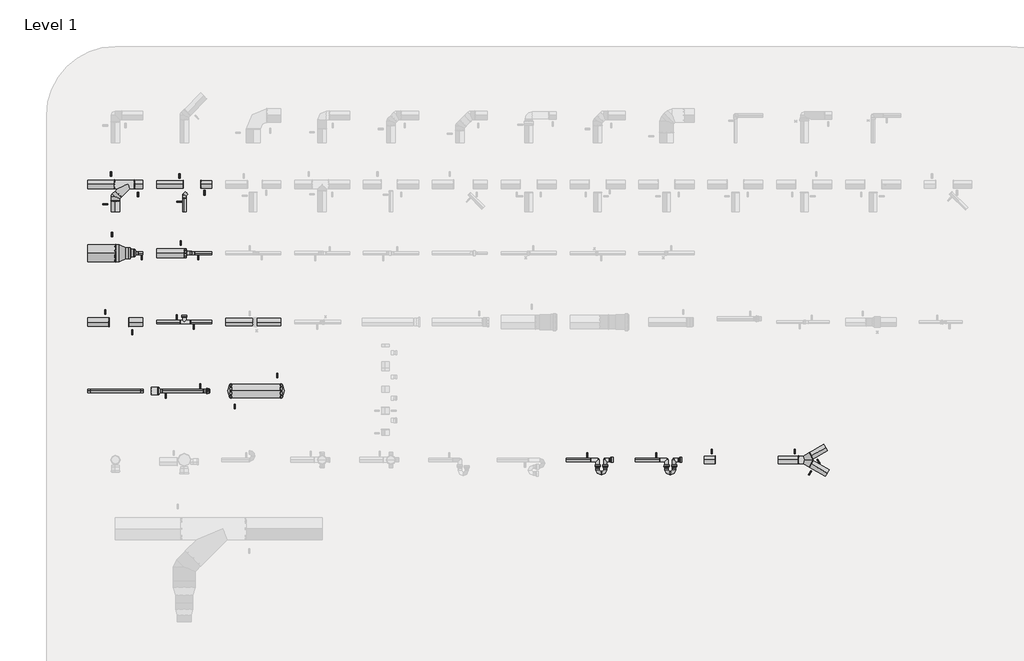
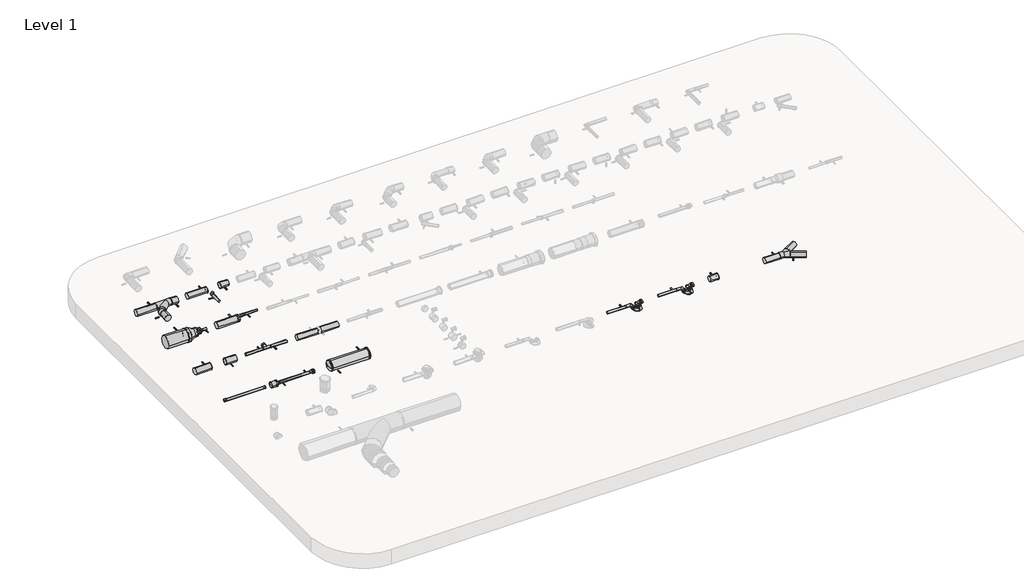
# One storey, part 2 of 6: 44 pipe fittings, 25 pipe segments.
"""IFC4 building model written with IfcOpenShell, lengths in millimetres."""

from ifc_helpers import new_model, si_unit, point, frame, frame_2d, origin, place, context, project, spatial, circle_curve, trimmed, segment, composite_curve, outline, extrude, transform, mapped, element, save
from components import var_9bac737f, var_ad64e43e, var_f264d998, var_078c649d, var_e8e01903, var_733641dc, var_dcd50663, nested_do_not_use_f8d48da3, nested_do_not_use_355ab53d, nested_do_not_use_767789ff, nested_do_not_use_3388fafc, nested_do_not_use_92dc5302, nested_do_not_use_8d55d71e, nested_do_not_use_f3a1de72, nested_do_not_use_7bd735e8, nested_do_not_use_cade87c8, nested_do_not_use_d63bcd51, welded_7e5780db, welded_b2ff7ccb, welded_75b1cb19, welded_63566782, welded_ed6f555c, welded_ac007b25

model = new_model("IFC4")

# Units and contexts
model_context = context("Model", 3, world=origin())
ifc_project = project(units=[si_unit("LENGTHUNIT", "METRE", prefix="MILLI")], contexts=[model_context])

# Site, building, storey
site = spatial("IfcSite", under=ifc_project)
building = spatial("IfcBuilding", under=site)
storey = spatial("IfcBuildingStorey", under=building, Name="Level 1", Elevation=0.0)

# Pipe fittings
placement = place(None, origin())
var_shape = var_9bac737f(model_context)
element("IfcPipeFitting", 1, ObjectType="PIF_HDPE cap for pipe_Akatherm : Var.", at=placement, inside=storey, context=model_context, shape_type="MappedRepresentation", body=[
    mapped(var_shape, transform((2259.9781064, 16273.6274824, 200.0), x_axis=(-1.0, 0.0, 0.0), y_axis=(0.0, -1.0, 0.0), z_axis=(0.0, 0.0, 1.0))),
])
element("IfcPipeFitting", 2, ObjectType="PIF_HDPE cap for pipe_Akatherm : Var.", at=placement, inside=storey, context=model_context, shape_type="MappedRepresentation", body=[
    mapped(var_shape, transform((3059.9781064, 16273.6274824, 200.0), x_axis=(1.0, 0.0, 0.0), y_axis=(0.0, 1.0, 0.0), z_axis=(0.0, 0.0, 1.0))),
])
var_2_shape = var_ad64e43e(model_context)
element("IfcPipeFitting", 3, ObjectType="PIF_HDPE cleanout branch_Akatherm : Var.", at=placement, inside=storey, context=model_context, shape_type="MappedRepresentation", body=[
    mapped(var_2_shape, transform((3659.9781064, 17273.6274824, 200.0), x_axis=(1.0, 0.0, 0.0), y_axis=(0.0, 1.0, 0.0), z_axis=(0.0, 0.0, 1.0))),
])
var_3_shape = var_f264d998(model_context)
element("IfcPipeFitting", 4, ObjectType="PIF_HDPE inspection screw lock_Akatherm : Var.", at=placement, inside=storey, context=model_context, shape_type="MappedRepresentation", body=[
    mapped(var_3_shape, transform((3939.9781064, 16273.6274824, 200.0), x_axis=(1.0, 0.0, 0.0), y_axis=(0.0, 1.0, 0.0), z_axis=(0.0, 0.0, 1.0))),
])
var_4_shape = var_078c649d(model_context)
element("IfcPipeFitting", 5, ObjectType="PIF_HDPE screw cap_Akatherm : Var.", at=placement, inside=storey, context=model_context, shape_type="MappedRepresentation", body=[
    mapped(var_4_shape, transform((3265.3781064, 16273.6274824, 200.0), x_axis=(-1.0, 0.0, 0.0), y_axis=(0.0, -1.0, 0.0), z_axis=(0.0, 0.0, 1.0))),
])
var_5_shape = var_e8e01903(model_context)
element("IfcPipeFitting", 6, ObjectType="PIF_HDPE end cap round_Akatherm : Var.", at=placement, inside=storey, context=model_context, shape_type="MappedRepresentation", body=[
    mapped(var_5_shape, transform((4339.9781064, 16273.6274824, 200.0), x_axis=(-1.0, 0.0, 0.0), y_axis=(0.0, -1.0, 0.0), z_axis=(0.0, 0.0, 1.0))),
])
element("IfcPipeFitting", 7, ObjectType="PIF_HDPE end cap round_Akatherm : Var.", at=placement, inside=storey, context=model_context, shape_type="MappedRepresentation", body=[
    mapped(var_5_shape, transform((5059.9781064, 16273.6274824, 200.0), x_axis=(1.0, 0.0, 0.0), y_axis=(0.0, 1.0, 0.0), z_axis=(0.0, 0.0, 1.0))),
])
var_6_shape = var_733641dc(model_context)
element("IfcPipeFitting", 8, ObjectType="PIF_HDPE u trap_Akatherm : Var.", at=placement, inside=storey, context=model_context, shape_type="MappedRepresentation", body=[
    mapped(var_6_shape, transform((9714.9781064, 15273.6274824, 200.0), x_axis=(1.0, 0.0, 0.0), y_axis=(0.0, 1.0, 0.0), z_axis=(0.0, 0.0, 1.0))),
])
element("IfcPipeFitting", 9, ObjectType="PIF_HDPE u trap_Akatherm : Var.", at=placement, inside=storey, context=model_context, shape_type="MappedRepresentation", body=[
    mapped(var_6_shape, transform((10714.9781064, 15273.6274824, 200.0), x_axis=(1.0, 0.0, 0.0), y_axis=(0.0, 1.0, 0.0), z_axis=(0.0, 0.0, 1.0))),
])
var_7_shape = var_dcd50663(model_context)
element("IfcPipeFitting", 10, ObjectType="PIF_HDPE y branch_Akatherm : Var.", at=placement, inside=storey, context=model_context, shape_type="MappedRepresentation", body=[
    mapped(var_7_shape, transform((12659.9781064, 15273.6274824, 200.0), x_axis=(1.0, 0.0, 0.0), y_axis=(0.0, 1.0, 0.0), z_axis=(0.0, 0.0, 1.0))),
])
nested_do_not_use_shape = nested_do_not_use_f8d48da3(model_context)
element("IfcPipeFitting", 11, ObjectType="ZZZ_do no use_PIF_HDPE reducer -SH_Akatherm : nested, do not use", at=placement, inside=storey, context=model_context, shape_type="MappedRepresentation", body=[
    mapped(nested_do_not_use_shape, transform((2878.3781064, 18273.6274824, 200.0), x_axis=(1.0, 0.0, 0.0), y_axis=(0.0, 1.0, 0.0), z_axis=(0.0, 0.0, 1.0))),
])
nested_do_not_use_2_shape = nested_do_not_use_355ab53d(model_context)
element("IfcPipeFitting", 12, ObjectType="ZZZ_do no use_PIF_HDPE elbow for branch assembly -SH_Akatherm : nested, do not use", at=placement, inside=storey, context=model_context, shape_type="MappedRepresentation", body=[
    mapped(nested_do_not_use_2_shape, transform((2659.9781064, 19092.1838823, 200.0), x_axis=(0.0, 1.0, 0.0), y_axis=(-1.0, 0.0, 0.0), z_axis=(0.0, 0.0, 1.0))),
])
nested_do_not_use_3_shape = nested_do_not_use_767789ff(model_context)
element("IfcPipeFitting", 13, ObjectType="ZZZ_do no use_PIF_HDPE elbow for branch assembly -SH_Akatherm : nested, do not use", at=placement, inside=storey, context=model_context, shape_type="MappedRepresentation", body=[
    mapped(nested_do_not_use_3_shape, transform((3659.9781064, 19116.9326197, 200.0), x_axis=(0.0, 1.0, 0.0), y_axis=(-1.0, 0.0, 0.0), z_axis=(0.0, 0.0, 1.0))),
])
nested_do_not_use_4_shape = nested_do_not_use_3388fafc(model_context)
element("IfcPipeFitting", 14, ObjectType="ZZZ_do no use_PIF_HDPE equal branch -SH_Akatherm : nested, do not use", at=placement, inside=storey, context=model_context, shape_type="MappedRepresentation", body=[
    mapped(nested_do_not_use_4_shape, transform((2841.4217065, 19273.6274824, 200.0), x_axis=(-1.0, 0.0, 0.0), y_axis=(0.0, -1.0, 0.0), z_axis=(0.0, 0.0, 1.0))),
])
nested_do_not_use_5_shape = nested_do_not_use_92dc5302(model_context)
element("IfcPipeFitting", 15, ObjectType="ZZZ_do no use_PIF_HDPE reducer -SH_Akatherm : nested, do not use", at=placement, inside=storey, context=model_context, shape_type="MappedRepresentation", body=[
    mapped(nested_do_not_use_5_shape, transform((3695.7781064, 18273.6274824, 200.0), x_axis=(1.0, 0.0, 0.0), y_axis=(0.0, 1.0, 0.0), z_axis=(0.0, 0.0, 1.0))),
])
nested_do_not_use_6_shape = nested_do_not_use_8d55d71e(model_context)
element("IfcPipeFitting", 16, ObjectType="ZZZ_do no use_PIF_HDPE reducer -SH_Akatherm : nested, do not use", at=placement, inside=storey, context=model_context, shape_type="MappedRepresentation", body=[
    mapped(nested_do_not_use_6_shape, transform((3772.3781064, 18273.6274824, 235.5), x_axis=(1.0, 0.0, 0.0), y_axis=(0.0, 1.0, 0.0), z_axis=(0.0, 0.0, 1.0))),
])
nested_do_not_use_7_shape = nested_do_not_use_f3a1de72(model_context)
element("IfcPipeFitting", 17, ObjectType="ZZZ_do no use_PIF_HDPE reducer -SH_Akatherm : nested, do not use", at=placement, inside=storey, context=model_context, shape_type="MappedRepresentation", body=[
    mapped(nested_do_not_use_7_shape, transform((2750.5281064, 18273.6274824, 200.0), x_axis=(1.0, 0.0, 0.0), y_axis=(0.0, 1.0, 0.0), z_axis=(0.0, 0.0, 1.0))),
])
nested_do_not_use_8_shape = nested_do_not_use_7bd735e8(model_context)
element("IfcPipeFitting", 18, ObjectType="ZZZ_do no use_PIF_HDPE reducer -SH_Akatherm : nested, do not use", at=placement, inside=storey, context=model_context, shape_type="MappedRepresentation", body=[
    mapped(nested_do_not_use_8_shape, transform((2950.9781064, 18273.6274824, 200.0), x_axis=(1.0, 0.0, 0.0), y_axis=(0.0, 1.0, 0.0), z_axis=(0.0, 0.0, 1.0))),
])
nested_do_not_use_9_shape = nested_do_not_use_cade87c8(model_context)
element("IfcPipeFitting", 19, ObjectType="ZZZ_do no use_PIF_HDPE reducer -SH_Akatherm : nested, do not use", at=placement, inside=storey, context=model_context, shape_type="MappedRepresentation", body=[
    mapped(nested_do_not_use_9_shape, transform((3301.6781064, 16273.6274824, 200.0), x_axis=(1.0, 0.0, 0.0), y_axis=(0.0, 1.0, 0.0), z_axis=(0.0, 0.0, 1.0))),
])
nested_do_not_use_10_shape = nested_do_not_use_d63bcd51(model_context)
element("IfcPipeFitting", 20, ObjectType="ZZZ_do no use_PIF_HDPE end cap for inspection screw lock -SH_Akatherm : nested, do not use", at=placement, inside=storey, context=model_context, shape_type="MappedRepresentation", body=[
    mapped(nested_do_not_use_10_shape, transform((4010.2781064, 16273.6274824, 200.0), x_axis=(1.0, 0.0, 0.0), y_axis=(0.0, 1.0, 0.0), z_axis=(0.0, 0.0, 1.0))),
])
welded_shape = welded_7e5780db(model_context)
element("IfcPipeFitting", 21, ObjectType="PIF_HDPE weld_Akatherm : welded", at=placement, inside=storey, context=model_context, shape_type="MappedRepresentation", body=[
    mapped(welded_shape, transform((2937.2217065, 19273.6274824, 200.0), x_axis=(1.0, 0.0, 0.0), y_axis=(0.0, 1.0, 0.0), z_axis=(0.0, 0.0, 1.0))),
])
element("IfcPipeFitting", 22, ObjectType="PIF_HDPE weld_Akatherm : welded", at=placement, inside=storey, context=model_context, shape_type="MappedRepresentation", body=[
    mapped(welded_shape, transform((2645.6217065, 19273.6274824, 200.0), x_axis=(-1.0, 0.0, 0.0), y_axis=(0.0, -1.0, 0.0), z_axis=(0.0, 0.0, 1.0))),
])
element("IfcPipeFitting", 23, ObjectType="PIF_HDPE weld_Akatherm : welded", at=placement, inside=storey, context=model_context, shape_type="MappedRepresentation", body=[
    mapped(welded_shape, transform((2659.9781064, 19031.3838823, 200.0), x_axis=(0.0, -1.0, 0.0), y_axis=(1.0, 0.0, 0.0), z_axis=(0.0, 0.0, 1.0))),
])
element("IfcPipeFitting", 24, ObjectType="PIF_HDPE weld_Akatherm : welded", at=placement, inside=storey, context=model_context, shape_type="MappedRepresentation", body=[
    mapped(welded_shape, transform((3659.9781064, 18273.6274824, 200.0), x_axis=(-1.0, 0.0, 0.0), y_axis=(0.0, -1.0, 0.0), z_axis=(0.0, 0.0, 1.0))),
])
element("IfcPipeFitting", 25, ObjectType="PIF_HDPE weld_Akatherm : welded", at=placement, inside=storey, context=model_context, shape_type="MappedRepresentation", body=[
    mapped(welded_shape, transform((2564.1781064, 17273.6274824, 200.0), x_axis=(-1.0, 0.0, 0.0), y_axis=(0.0, -1.0, 0.0), z_axis=(0.0, 0.0, 1.0))),
])
element("IfcPipeFitting", 26, ObjectType="PIF_HDPE weld_Akatherm : welded", at=placement, inside=storey, context=model_context, shape_type="MappedRepresentation", body=[
    mapped(welded_shape, transform((2855.7781064, 17273.6274824, 200.0), x_axis=(1.0, 0.0, 0.0), y_axis=(0.0, 1.0, 0.0), z_axis=(0.0, 0.0, 1.0))),
])
welded_2_shape = welded_b2ff7ccb(model_context)
element("IfcPipeFitting", 27, ObjectType="PIF_HDPE weld_Akatherm : welded", at=placement, inside=storey, context=model_context, shape_type="MappedRepresentation", body=[
    mapped(welded_2_shape, transform((5059.9781064, 16273.6274824, 200.0), x_axis=(-1.0, 0.0, 0.0), y_axis=(0.0, -1.0, 0.0), z_axis=(0.0, 0.0, 1.0))),
])
element("IfcPipeFitting", 28, ObjectType="PIF_HDPE weld_Akatherm : welded", at=placement, inside=storey, context=model_context, shape_type="MappedRepresentation", body=[
    mapped(welded_2_shape, transform((4339.9781064, 16273.6274824, 200.0), x_axis=(1.0, 0.0, 0.0), y_axis=(0.0, 1.0, 0.0), z_axis=(0.0, 0.0, 1.0))),
])
welded_3_shape = welded_75b1cb19(model_context)
element("IfcPipeFitting", 29, ObjectType="PIF_HDPE weld_Akatherm : welded", at=placement, inside=storey, context=model_context, shape_type="MappedRepresentation", body=[
    mapped(welded_3_shape, transform((3659.9781064, 19073.6326197, 200.0), x_axis=(0.0, -1.0, 0.0), y_axis=(1.0, 0.0, 0.0), z_axis=(0.0, 0.0, 1.0))),
])
element("IfcPipeFitting", 30, ObjectType="PIF_HDPE weld_Akatherm : welded", at=placement, inside=storey, context=model_context, shape_type="MappedRepresentation", body=[
    mapped(welded_3_shape, transform((3601.6781064, 17273.6274824, 200.0), x_axis=(-1.0, 0.0, 0.0), y_axis=(0.0, -1.0, 0.0), z_axis=(0.0, 0.0, 1.0))),
])
element("IfcPipeFitting", 31, ObjectType="PIF_HDPE weld_Akatherm : welded", at=placement, inside=storey, context=model_context, shape_type="MappedRepresentation", body=[
    mapped(welded_3_shape, transform((3748.2781064, 17273.6274824, 200.0), x_axis=(1.0, 0.0, 0.0), y_axis=(0.0, 1.0, 0.0), z_axis=(0.0, 0.0, 1.0))),
])
element("IfcPipeFitting", 32, ObjectType="PIF_HDPE weld_Akatherm : welded", at=placement, inside=storey, context=model_context, shape_type="MappedRepresentation", body=[
    mapped(welded_3_shape, transform((3339.9781064, 16273.6274824, 200.0), x_axis=(1.0, 0.0, 0.0), y_axis=(0.0, 1.0, 0.0), z_axis=(0.0, 0.0, 1.0))),
])
element("IfcPipeFitting", 33, ObjectType="PIF_HDPE weld_Akatherm : welded", at=placement, inside=storey, context=model_context, shape_type="MappedRepresentation", body=[
    mapped(welded_3_shape, transform((3939.9781064, 16273.6274824, 200.0), x_axis=(-1.0, 0.0, 0.0), y_axis=(0.0, -1.0, 0.0), z_axis=(0.0, 0.0, 1.0))),
])
element("IfcPipeFitting", 34, ObjectType="PIF_HDPE weld_Akatherm : welded", at=placement, inside=storey, context=model_context, shape_type="MappedRepresentation", body=[
    mapped(welded_3_shape, transform((9557.6781064, 15273.6274824, 200.0), x_axis=(-1.0, 0.0, 0.0), y_axis=(0.0, -1.0, 0.0), z_axis=(0.0, 0.0, 1.0))),
])
element("IfcPipeFitting", 35, ObjectType="PIF_HDPE weld_Akatherm : welded", at=placement, inside=storey, context=model_context, shape_type="MappedRepresentation", body=[
    mapped(welded_3_shape, transform((10557.6781064, 15273.6274824, 200.0), x_axis=(-1.0, 0.0, 0.0), y_axis=(0.0, -1.0, 0.0), z_axis=(0.0, 0.0, 1.0))),
])
welded_4_shape = welded_63566782(model_context)
element("IfcPipeFitting", 36, ObjectType="PIF_HDPE weld_Akatherm : welded", at=placement, inside=storey, context=model_context, shape_type="MappedRepresentation", body=[
    mapped(welded_4_shape, transform((3810.6781064, 18273.6274824, 238.5), x_axis=(1.0, 0.0, 0.0), y_axis=(0.0, 1.0, 0.0), z_axis=(0.0, 0.0, 1.0))),
])
element("IfcPipeFitting", 37, ObjectType="PIF_HDPE weld_Akatherm : welded", at=placement, inside=storey, context=model_context, shape_type="MappedRepresentation", body=[
    mapped(welded_4_shape, transform((2989.2781064, 18273.6274824, 200.0), x_axis=(1.0, 0.0, 0.0), y_axis=(0.0, 1.0, 0.0), z_axis=(0.0, 0.0, 1.0))),
])
welded_5_shape = welded_ed6f555c(model_context)
element("IfcPipeFitting", 38, ObjectType="PIF_HDPE weld_Akatherm : welded", at=placement, inside=storey, context=model_context, shape_type="MappedRepresentation", body=[
    mapped(welded_5_shape, transform((2659.9781064, 18273.6274824, 200.0), x_axis=(-1.0, 0.0, 0.0), y_axis=(0.0, -1.0, 0.0), z_axis=(0.0, 0.0, 1.0))),
])
welded_6_shape = welded_ac007b25(model_context)
element("IfcPipeFitting", 39, ObjectType="PIF_HDPE weld_Akatherm : welded", at=placement, inside=storey, context=model_context, shape_type="MappedRepresentation", body=[
    mapped(welded_6_shape, transform((3902.9729691, 19273.6274824, 200.0), x_axis=(1.0, 0.0, 0.0), y_axis=(0.0, 1.0, 0.0), z_axis=(0.0, 0.0, 1.0))),
])
element("IfcPipeFitting", 40, ObjectType="PIF_HDPE weld_Akatherm : welded", at=placement, inside=storey, context=model_context, shape_type="MappedRepresentation", body=[
    mapped(welded_6_shape, transform((3640.3729691, 19273.6274824, 200.0), x_axis=(-1.0, 0.0, 0.0), y_axis=(0.0, -1.0, 0.0), z_axis=(0.0, 0.0, 1.0))),
])
element("IfcPipeFitting", 41, ObjectType="PIF_HDPE weld_Akatherm : welded", at=placement, inside=storey, context=model_context, shape_type="MappedRepresentation", body=[
    mapped(welded_6_shape, transform((11363.6781064, 15273.6274824, 200.0), x_axis=(-1.0, 0.0, 0.0), y_axis=(0.0, -1.0, 0.0), z_axis=(0.0, 0.0, 1.0))),
])
element("IfcPipeFitting", 42, ObjectType="PIF_HDPE weld_Akatherm : welded", at=placement, inside=storey, context=model_context, shape_type="MappedRepresentation", body=[
    mapped(welded_6_shape, transform((12573.6781064, 15273.6274824, 200.0), x_axis=(-1.0, 0.0, 0.0), y_axis=(0.0, -1.0, 0.0), z_axis=(0.0, 0.0, 1.0))),
])
element("IfcPipeFitting", 43, ObjectType="PIF_HDPE weld_Akatherm : welded", at=placement, inside=storey, context=model_context, shape_type="MappedRepresentation", body=[
    mapped(welded_6_shape, transform((12760.6968609, 15331.7774824, 200.0), x_axis=(0.8660254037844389, 0.49999999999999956, 0.0), y_axis=(-0.49999999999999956, 0.8660254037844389, 0.0), z_axis=(0.0, 0.0, 1.0))),
])
element("IfcPipeFitting", 44, ObjectType="PIF_HDPE weld_Akatherm : welded", at=placement, inside=storey, context=model_context, shape_type="MappedRepresentation", body=[
    mapped(welded_6_shape, transform((12760.6968609, 15215.4774824, 200.0), x_axis=(0.8660254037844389, -0.49999999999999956, 0.0), y_axis=(0.49999999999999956, 0.8660254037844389, 0.0), z_axis=(0.0, 0.0, 1.0))),
])

# Pipe segments
element("IfcPipeSegment", 45, ObjectType="Akatherm HDPE (DN)", at=placement, inside=storey, context=model_context, shape_type="SweptSolid", body=[
    extrude(outline(composite_curve([segment(trimmed(circle_curve(frame_2d((19273.6274824, 200.0)), 62.5), [point((19211.1274824, 200.0))], [point((19273.6274824, 262.5))], False, "CARTESIAN"), True, "CONTINUOUS"), segment(trimmed(circle_curve(frame_2d((19273.6274824, 200.0)), 62.5), [point((19273.6274824, 262.5))], [point((19336.1274824, 200.0))], False, "CARTESIAN"), True, "CONTINUOUS"), segment(trimmed(circle_curve(frame_2d((19273.6274824, 200.0)), 62.5), [point((19336.1274824, 200.0))], [point((19273.6274824, 137.5))], False, "CARTESIAN"), True, "CONTINUOUS"), segment(trimmed(circle_curve(frame_2d((19273.6274824, 200.0)), 62.5), [point((19273.6274824, 137.5))], [point((19211.1274824, 200.0))], False, "CARTESIAN"), True, "CONTINUOUS")], self_intersect=False)), frame((2933.0217065, 0.0, 0.0), z_axis=(1.0, 0.0, 0.0), x_axis=(0.0, 1.0, 0.0)), (0.0, 0.0, 1.0), 126.9563999),
])
element("IfcPipeSegment", 46, ObjectType="Akatherm HDPE (DN)", at=placement, inside=storey, context=model_context, shape_type="SweptSolid", body=[
    extrude(outline(composite_curve([segment(trimmed(circle_curve(frame_2d((200.0, 2659.9781064)), 62.5), [point((200.0, 2597.4781064))], [point((137.5, 2659.9781064))], False, "CARTESIAN"), True, "CONTINUOUS"), segment(trimmed(circle_curve(frame_2d((200.0, 2659.9781064)), 62.5), [point((137.5, 2659.9781064))], [point((200.0, 2722.4781064))], False, "CARTESIAN"), True, "CONTINUOUS"), segment(trimmed(circle_curve(frame_2d((200.0, 2659.9781064)), 62.5), [point((200.0, 2722.4781064))], [point((262.5, 2659.9781064))], False, "CARTESIAN"), True, "CONTINUOUS"), segment(trimmed(circle_curve(frame_2d((200.0, 2659.9781064)), 62.5), [point((262.5, 2659.9781064))], [point((200.0, 2597.4781064))], False, "CARTESIAN"), True, "CONTINUOUS")], self_intersect=False)), frame((0.0, 18873.6274824, 0.0), z_axis=(0.0, 1.0, 0.0), x_axis=(0.0, 0.0, 1.0)), (0.0, 0.0, 1.0), 161.9563999),
])
element("IfcPipeSegment", 47, ObjectType="Akatherm HDPE (DN)", at=placement, inside=storey, context=model_context, shape_type="SweptSolid", body=[
    extrude(outline(composite_curve([segment(trimmed(circle_curve(frame_2d((19273.6274824, 200.0)), 62.5), [point((19211.1274824, 200.0))], [point((19273.6274824, 262.5))], False, "CARTESIAN"), True, "CONTINUOUS"), segment(trimmed(circle_curve(frame_2d((19273.6274824, 200.0)), 62.5), [point((19273.6274824, 262.5))], [point((19336.1274824, 200.0))], False, "CARTESIAN"), True, "CONTINUOUS"), segment(trimmed(circle_curve(frame_2d((19273.6274824, 200.0)), 62.5), [point((19336.1274824, 200.0))], [point((19273.6274824, 137.5))], False, "CARTESIAN"), True, "CONTINUOUS"), segment(trimmed(circle_curve(frame_2d((19273.6274824, 200.0)), 62.5), [point((19273.6274824, 137.5))], [point((19211.1274824, 200.0))], False, "CARTESIAN"), True, "CONTINUOUS")], self_intersect=False)), frame((2259.9781064, 0.0, 0.0), z_axis=(1.0, 0.0, 0.0), x_axis=(0.0, 1.0, 0.0)), (0.0, 0.0, 1.0), 389.8436001),
])
element("IfcPipeSegment", 48, ObjectType="Akatherm HDPE (DN)", at=placement, inside=storey, context=model_context, shape_type="SweptSolid", body=[
    extrude(outline(composite_curve([segment(trimmed(circle_curve(frame_2d((19273.6274824, 200.0)), 55.0), [point((19218.6274824, 200.0))], [point((19273.6274824, 255.0))], False, "CARTESIAN"), True, "CONTINUOUS"), segment(trimmed(circle_curve(frame_2d((19273.6274824, 200.0)), 55.0), [point((19273.6274824, 255.0))], [point((19328.6274824, 200.0))], False, "CARTESIAN"), True, "CONTINUOUS"), segment(trimmed(circle_curve(frame_2d((19273.6274824, 200.0)), 55.0), [point((19328.6274824, 200.0))], [point((19273.6274824, 145.0))], False, "CARTESIAN"), True, "CONTINUOUS"), segment(trimmed(circle_curve(frame_2d((19273.6274824, 200.0)), 55.0), [point((19273.6274824, 145.0))], [point((19218.6274824, 200.0))], False, "CARTESIAN"), True, "CONTINUOUS")], self_intersect=False)), frame((3899.2729691, 0.0, 0.0), z_axis=(1.0, 0.0, 0.0), x_axis=(0.0, 1.0, 0.0)), (0.0, 0.0, 1.0), 160.7051373),
])
element("IfcPipeSegment", 49, ObjectType="Akatherm HDPE (DN)", at=placement, inside=storey, context=model_context, shape_type="SweptSolid", body=[
    extrude(outline(composite_curve([segment(trimmed(circle_curve(frame_2d((200.0, 3659.9781064)), 25.0), [point((200.0, 3634.9781064))], [point((175.0, 3659.9781064))], False, "CARTESIAN"), True, "CONTINUOUS"), segment(trimmed(circle_curve(frame_2d((200.0, 3659.9781064)), 25.0), [point((175.0, 3659.9781064))], [point((200.0, 3684.9781064))], False, "CARTESIAN"), True, "CONTINUOUS"), segment(trimmed(circle_curve(frame_2d((200.0, 3659.9781064)), 25.0), [point((200.0, 3684.9781064))], [point((225.0, 3659.9781064))], False, "CARTESIAN"), True, "CONTINUOUS"), segment(trimmed(circle_curve(frame_2d((200.0, 3659.9781064)), 25.0), [point((225.0, 3659.9781064))], [point((200.0, 3634.9781064))], False, "CARTESIAN"), True, "CONTINUOUS")], self_intersect=False)), frame((0.0, 18873.6274824, 0.0), z_axis=(0.0, 1.0, 0.0), x_axis=(0.0, 0.0, 1.0)), (0.0, 0.0, 1.0), 201.7051373),
])
element("IfcPipeSegment", 50, ObjectType="Akatherm HDPE (DN)", at=placement, inside=storey, context=model_context, shape_type="SweptSolid", body=[
    extrude(outline(composite_curve([segment(trimmed(circle_curve(frame_2d((19273.6274824, 200.0)), 55.0), [point((19218.6274824, 200.0))], [point((19273.6274824, 255.0))], False, "CARTESIAN"), True, "CONTINUOUS"), segment(trimmed(circle_curve(frame_2d((19273.6274824, 200.0)), 55.0), [point((19273.6274824, 255.0))], [point((19328.6274824, 200.0))], False, "CARTESIAN"), True, "CONTINUOUS"), segment(trimmed(circle_curve(frame_2d((19273.6274824, 200.0)), 55.0), [point((19328.6274824, 200.0))], [point((19273.6274824, 145.0))], False, "CARTESIAN"), True, "CONTINUOUS"), segment(trimmed(circle_curve(frame_2d((19273.6274824, 200.0)), 55.0), [point((19273.6274824, 145.0))], [point((19218.6274824, 200.0))], False, "CARTESIAN"), True, "CONTINUOUS")], self_intersect=False)), frame((3259.9781064, 0.0, 0.0), z_axis=(1.0, 0.0, 0.0), x_axis=(0.0, 1.0, 0.0)), (0.0, 0.0, 1.0), 384.0948627),
])
element("IfcPipeSegment", 51, ObjectType="Akatherm HDPE (DN)", at=placement, inside=storey, context=model_context, shape_type="SweptSolid", body=[
    extrude(outline(composite_curve([segment(trimmed(circle_curve(frame_2d((18273.6274824, 200.0)), 125.0), [point((18148.6274824, 200.0))], [point((18273.6274824, 325.0))], False, "CARTESIAN"), True, "CONTINUOUS"), segment(trimmed(circle_curve(frame_2d((18273.6274824, 200.0)), 125.0), [point((18273.6274824, 325.0))], [point((18398.6274824, 200.0))], False, "CARTESIAN"), True, "CONTINUOUS"), segment(trimmed(circle_curve(frame_2d((18273.6274824, 200.0)), 125.0), [point((18398.6274824, 200.0))], [point((18273.6274824, 75.0))], False, "CARTESIAN"), True, "CONTINUOUS"), segment(trimmed(circle_curve(frame_2d((18273.6274824, 200.0)), 125.0), [point((18273.6274824, 75.0))], [point((18148.6274824, 200.0))], False, "CARTESIAN"), True, "CONTINUOUS")], self_intersect=False)), frame((2259.9781064, 0.0, 0.0), z_axis=(1.0, 0.0, 0.0), x_axis=(0.0, 1.0, 0.0)), (0.0, 0.0, 1.0), 406.7),
])
element("IfcPipeSegment", 52, ObjectType="Akatherm HDPE (DN)", at=placement, inside=storey, context=model_context, shape_type="SweptSolid", body=[
    extrude(outline(composite_curve([segment(trimmed(circle_curve(frame_2d((18273.6274824, 200.0)), 20.0), [point((18253.6274824, 200.0))], [point((18273.6274824, 220.0))], False, "CARTESIAN"), True, "CONTINUOUS"), segment(trimmed(circle_curve(frame_2d((18273.6274824, 200.0)), 20.0), [point((18273.6274824, 220.0))], [point((18293.6274824, 200.0))], False, "CARTESIAN"), True, "CONTINUOUS"), segment(trimmed(circle_curve(frame_2d((18273.6274824, 200.0)), 20.0), [point((18293.6274824, 200.0))], [point((18273.6274824, 180.0))], False, "CARTESIAN"), True, "CONTINUOUS"), segment(trimmed(circle_curve(frame_2d((18273.6274824, 200.0)), 20.0), [point((18273.6274824, 180.0))], [point((18253.6274824, 200.0))], False, "CARTESIAN"), True, "CONTINUOUS")], self_intersect=False)), frame((2987.5781064, 0.0, 0.0), z_axis=(1.0, 0.0, 0.0), x_axis=(0.0, 1.0, 0.0)), (0.0, 0.0, 1.0), 72.4),
])
element("IfcPipeSegment", 53, ObjectType="Akatherm HDPE (DN)", at=placement, inside=storey, context=model_context, shape_type="SweptSolid", body=[
    extrude(outline(composite_curve([segment(trimmed(circle_curve(frame_2d((18273.6274824, 200.0)), 62.5), [point((18211.1274824, 200.0))], [point((18273.6274824, 262.5))], False, "CARTESIAN"), True, "CONTINUOUS"), segment(trimmed(circle_curve(frame_2d((18273.6274824, 200.0)), 62.5), [point((18273.6274824, 262.5))], [point((18336.1274824, 200.0))], False, "CARTESIAN"), True, "CONTINUOUS"), segment(trimmed(circle_curve(frame_2d((18273.6274824, 200.0)), 62.5), [point((18336.1274824, 200.0))], [point((18273.6274824, 137.5))], False, "CARTESIAN"), True, "CONTINUOUS"), segment(trimmed(circle_curve(frame_2d((18273.6274824, 200.0)), 62.5), [point((18273.6274824, 137.5))], [point((18211.1274824, 200.0))], False, "CARTESIAN"), True, "CONTINUOUS")], self_intersect=False)), frame((3259.9781064, 0.0, 0.0), z_axis=(1.0, 0.0, 0.0), x_axis=(0.0, 1.0, 0.0)), (0.0, 0.0, 1.0), 404.2),
])
element("IfcPipeSegment", 54, ObjectType="Akatherm HDPE (DN)", at=placement, inside=storey, context=model_context, shape_type="SweptSolid", body=[
    extrude(outline(composite_curve([segment(trimmed(circle_curve(frame_2d((18273.6274824, 238.5)), 20.0), [point((18253.6274824, 238.5))], [point((18273.6274824, 258.5))], False, "CARTESIAN"), True, "CONTINUOUS"), segment(trimmed(circle_curve(frame_2d((18273.6274824, 238.5)), 20.0), [point((18273.6274824, 258.5))], [point((18293.6274824, 238.5))], False, "CARTESIAN"), True, "CONTINUOUS"), segment(trimmed(circle_curve(frame_2d((18273.6274824, 238.5)), 20.0), [point((18293.6274824, 238.5))], [point((18273.6274824, 218.5))], False, "CARTESIAN"), True, "CONTINUOUS"), segment(trimmed(circle_curve(frame_2d((18273.6274824, 238.5)), 20.0), [point((18273.6274824, 218.5))], [point((18253.6274824, 238.5))], False, "CARTESIAN"), True, "CONTINUOUS")], self_intersect=False)), frame((3808.9781064, 0.0, 0.0), z_axis=(1.0, 0.0, 0.0), x_axis=(0.0, 1.0, 0.0)), (0.0, 0.0, 1.0), 251.0),
])
element("IfcPipeSegment", 55, ObjectType="Akatherm HDPE (DN)", at=placement, inside=storey, context=model_context, shape_type="SweptSolid", body=[
    extrude(outline(composite_curve([segment(trimmed(circle_curve(frame_2d((17273.6274824, 200.0)), 62.5), [point((17211.1274824, 200.0))], [point((17273.6274824, 262.5))], False, "CARTESIAN"), True, "CONTINUOUS"), segment(trimmed(circle_curve(frame_2d((17273.6274824, 200.0)), 62.5), [point((17273.6274824, 262.5))], [point((17336.1274824, 200.0))], False, "CARTESIAN"), True, "CONTINUOUS"), segment(trimmed(circle_curve(frame_2d((17273.6274824, 200.0)), 62.5), [point((17336.1274824, 200.0))], [point((17273.6274824, 137.5))], False, "CARTESIAN"), True, "CONTINUOUS"), segment(trimmed(circle_curve(frame_2d((17273.6274824, 200.0)), 62.5), [point((17273.6274824, 137.5))], [point((17211.1274824, 200.0))], False, "CARTESIAN"), True, "CONTINUOUS")], self_intersect=False)), frame((2259.9781064, 0.0, 0.0), z_axis=(1.0, 0.0, 0.0), x_axis=(0.0, 1.0, 0.0)), (0.0, 0.0, 1.0), 308.4),
])
element("IfcPipeSegment", 56, ObjectType="Akatherm HDPE (DN)", at=placement, inside=storey, context=model_context, shape_type="SweptSolid", body=[
    extrude(outline(composite_curve([segment(trimmed(circle_curve(frame_2d((17273.6274824, 200.0)), 62.5), [point((17211.1274824, 200.0))], [point((17273.6274824, 262.5))], False, "CARTESIAN"), True, "CONTINUOUS"), segment(trimmed(circle_curve(frame_2d((17273.6274824, 200.0)), 62.5), [point((17273.6274824, 262.5))], [point((17336.1274824, 200.0))], False, "CARTESIAN"), True, "CONTINUOUS"), segment(trimmed(circle_curve(frame_2d((17273.6274824, 200.0)), 62.5), [point((17336.1274824, 200.0))], [point((17273.6274824, 137.5))], False, "CARTESIAN"), True, "CONTINUOUS"), segment(trimmed(circle_curve(frame_2d((17273.6274824, 200.0)), 62.5), [point((17273.6274824, 137.5))], [point((17211.1274824, 200.0))], False, "CARTESIAN"), True, "CONTINUOUS")], self_intersect=False)), frame((2851.5781064, 0.0, 0.0), z_axis=(1.0, 0.0, 0.0), x_axis=(0.0, 1.0, 0.0)), (0.0, 0.0, 1.0), 208.4),
])
element("IfcPipeSegment", 57, ObjectType="Akatherm HDPE (DN)", at=placement, inside=storey, context=model_context, shape_type="SweptSolid", body=[
    extrude(outline(composite_curve([segment(trimmed(circle_curve(frame_2d((17273.6274824, 200.0)), 25.0), [point((17248.6274824, 200.0))], [point((17273.6274824, 225.0))], False, "CARTESIAN"), True, "CONTINUOUS"), segment(trimmed(circle_curve(frame_2d((17273.6274824, 200.0)), 25.0), [point((17273.6274824, 225.0))], [point((17298.6274824, 200.0))], False, "CARTESIAN"), True, "CONTINUOUS"), segment(trimmed(circle_curve(frame_2d((17273.6274824, 200.0)), 25.0), [point((17298.6274824, 200.0))], [point((17273.6274824, 175.0))], False, "CARTESIAN"), True, "CONTINUOUS"), segment(trimmed(circle_curve(frame_2d((17273.6274824, 200.0)), 25.0), [point((17273.6274824, 175.0))], [point((17248.6274824, 200.0))], False, "CARTESIAN"), True, "CONTINUOUS")], self_intersect=False)), frame((3259.9781064, 0.0, 0.0), z_axis=(1.0, 0.0, 0.0), x_axis=(0.0, 1.0, 0.0)), (0.0, 0.0, 1.0), 343.4),
])
element("IfcPipeSegment", 58, ObjectType="Akatherm HDPE (DN)", at=placement, inside=storey, context=model_context, shape_type="SweptSolid", body=[
    extrude(outline(composite_curve([segment(trimmed(circle_curve(frame_2d((17273.6274824, 200.0)), 25.0), [point((17248.6274824, 200.0))], [point((17273.6274824, 225.0))], False, "CARTESIAN"), True, "CONTINUOUS"), segment(trimmed(circle_curve(frame_2d((17273.6274824, 200.0)), 25.0), [point((17273.6274824, 225.0))], [point((17298.6274824, 200.0))], False, "CARTESIAN"), True, "CONTINUOUS"), segment(trimmed(circle_curve(frame_2d((17273.6274824, 200.0)), 25.0), [point((17298.6274824, 200.0))], [point((17273.6274824, 175.0))], False, "CARTESIAN"), True, "CONTINUOUS"), segment(trimmed(circle_curve(frame_2d((17273.6274824, 200.0)), 25.0), [point((17273.6274824, 175.0))], [point((17248.6274824, 200.0))], False, "CARTESIAN"), True, "CONTINUOUS")], self_intersect=False)), frame((3746.5781064, 0.0, 0.0), z_axis=(1.0, 0.0, 0.0), x_axis=(0.0, 1.0, 0.0)), (0.0, 0.0, 1.0), 313.4),
])
element("IfcPipeSegment", 59, ObjectType="Akatherm HDPE (DN)", at=placement, inside=storey, context=model_context, shape_type="SweptSolid", body=[
    extrude(outline(composite_curve([segment(trimmed(circle_curve(frame_2d((17273.6274824, 200.0)), 55.0), [point((17218.6274824, 200.0))], [point((17273.6274824, 255.0))], False, "CARTESIAN"), True, "CONTINUOUS"), segment(trimmed(circle_curve(frame_2d((17273.6274824, 200.0)), 55.0), [point((17273.6274824, 255.0))], [point((17328.6274824, 200.0))], False, "CARTESIAN"), True, "CONTINUOUS"), segment(trimmed(circle_curve(frame_2d((17273.6274824, 200.0)), 55.0), [point((17328.6274824, 200.0))], [point((17273.6274824, 145.0))], False, "CARTESIAN"), True, "CONTINUOUS"), segment(trimmed(circle_curve(frame_2d((17273.6274824, 200.0)), 55.0), [point((17273.6274824, 145.0))], [point((17218.6274824, 200.0))], False, "CARTESIAN"), True, "CONTINUOUS")], self_intersect=False)), frame((4259.9781064, 0.0, 0.0), z_axis=(1.0, 0.0, 0.0), x_axis=(0.0, 1.0, 0.0)), (0.0, 0.0, 1.0), 401.4),
])
element("IfcPipeSegment", 60, ObjectType="Akatherm HDPE (DN)", at=placement, inside=storey, context=model_context, shape_type="SweptSolid", body=[
    extrude(outline(composite_curve([segment(trimmed(circle_curve(frame_2d((17273.6274824, 200.0)), 55.0), [point((17218.6274824, 200.0))], [point((17273.6274824, 255.0))], False, "CARTESIAN"), True, "CONTINUOUS"), segment(trimmed(circle_curve(frame_2d((17273.6274824, 200.0)), 55.0), [point((17273.6274824, 255.0))], [point((17328.6274824, 200.0))], False, "CARTESIAN"), True, "CONTINUOUS"), segment(trimmed(circle_curve(frame_2d((17273.6274824, 200.0)), 55.0), [point((17328.6274824, 200.0))], [point((17273.6274824, 145.0))], False, "CARTESIAN"), True, "CONTINUOUS"), segment(trimmed(circle_curve(frame_2d((17273.6274824, 200.0)), 55.0), [point((17273.6274824, 145.0))], [point((17218.6274824, 200.0))], False, "CARTESIAN"), True, "CONTINUOUS")], self_intersect=False)), frame((4665.9781064, 0.0, 0.0), z_axis=(1.0, 0.0, 0.0), x_axis=(0.0, 1.0, 0.0)), (0.0, 0.0, 1.0), 394.0),
])
element("IfcPipeSegment", 61, ObjectType="Akatherm HDPE (DN)", at=placement, inside=storey, context=model_context, shape_type="SweptSolid", body=[
    extrude(outline(composite_curve([segment(trimmed(circle_curve(frame_2d((16273.6274824, 200.0)), 25.0), [point((16248.6274824, 200.0))], [point((16273.6274824, 225.0))], False, "CARTESIAN"), True, "CONTINUOUS"), segment(trimmed(circle_curve(frame_2d((16273.6274824, 200.0)), 25.0), [point((16273.6274824, 225.0))], [point((16298.6274824, 200.0))], False, "CARTESIAN"), True, "CONTINUOUS"), segment(trimmed(circle_curve(frame_2d((16273.6274824, 200.0)), 25.0), [point((16298.6274824, 200.0))], [point((16273.6274824, 175.0))], False, "CARTESIAN"), True, "CONTINUOUS"), segment(trimmed(circle_curve(frame_2d((16273.6274824, 200.0)), 25.0), [point((16273.6274824, 175.0))], [point((16248.6274824, 200.0))], False, "CARTESIAN"), True, "CONTINUOUS")], self_intersect=False)), frame((2259.9781064, 0.0, 0.0), z_axis=(1.0, 0.0, 0.0), x_axis=(0.0, 1.0, 0.0)), (0.0, 0.0, 1.0), 800.0),
])
element("IfcPipeSegment", 62, ObjectType="Akatherm HDPE (DN)", at=placement, inside=storey, context=model_context, shape_type="SweptSolid", body=[
    extrude(outline(composite_curve([segment(trimmed(circle_curve(frame_2d((16273.6274824, 200.0)), 25.0), [point((16248.6274824, 200.0))], [point((16273.6274824, 225.0))], False, "CARTESIAN"), True, "CONTINUOUS"), segment(trimmed(circle_curve(frame_2d((16273.6274824, 200.0)), 25.0), [point((16273.6274824, 225.0))], [point((16298.6274824, 200.0))], False, "CARTESIAN"), True, "CONTINUOUS"), segment(trimmed(circle_curve(frame_2d((16273.6274824, 200.0)), 25.0), [point((16298.6274824, 200.0))], [point((16273.6274824, 175.0))], False, "CARTESIAN"), True, "CONTINUOUS"), segment(trimmed(circle_curve(frame_2d((16273.6274824, 200.0)), 25.0), [point((16273.6274824, 175.0))], [point((16248.6274824, 200.0))], False, "CARTESIAN"), True, "CONTINUOUS")], self_intersect=False)), frame((3338.2781064, 0.0, 0.0), z_axis=(1.0, 0.0, 0.0), x_axis=(0.0, 1.0, 0.0)), (0.0, 0.0, 1.0), 603.4),
])
element("IfcPipeSegment", 63, ObjectType="Akatherm HDPE (DN)", at=placement, inside=storey, context=model_context, shape_type="SweptSolid", body=[
    extrude(outline(composite_curve([segment(trimmed(circle_curve(frame_2d((16273.6274824, 200.0)), 100.0), [point((16373.6274824, 200.0))], [point((16273.6274824, 100.0))], False, "CARTESIAN"), True, "CONTINUOUS"), segment(trimmed(circle_curve(frame_2d((16273.6274824, 200.0)), 100.0), [point((16273.6274824, 100.0))], [point((16173.6274824, 200.0))], False, "CARTESIAN"), True, "CONTINUOUS"), segment(trimmed(circle_curve(frame_2d((16273.6274824, 200.0)), 100.0), [point((16173.6274824, 200.0))], [point((16273.6274824, 300.0))], False, "CARTESIAN"), True, "CONTINUOUS"), segment(trimmed(circle_curve(frame_2d((16273.6274824, 200.0)), 100.0), [point((16273.6274824, 300.0))], [point((16373.6274824, 200.0))], False, "CARTESIAN"), True, "CONTINUOUS")], self_intersect=False)), frame((4334.2781064, 0.0, 0.0), z_axis=(1.0, 0.0, 0.0), x_axis=(0.0, 1.0, 0.0)), (0.0, 0.0, 1.0), 731.4),
])
element("IfcPipeSegment", 64, ObjectType="Akatherm HDPE (DN)", at=placement, inside=storey, context=model_context, shape_type="SweptSolid", body=[
    extrude(outline(composite_curve([segment(trimmed(circle_curve(frame_2d((15273.6274824, 200.0)), 25.0), [point((15298.6274824, 200.0))], [point((15273.6274824, 175.0))], False, "CARTESIAN"), True, "CONTINUOUS"), segment(trimmed(circle_curve(frame_2d((15273.6274824, 200.0)), 25.0), [point((15273.6274824, 175.0))], [point((15248.6274824, 200.0))], False, "CARTESIAN"), True, "CONTINUOUS"), segment(trimmed(circle_curve(frame_2d((15273.6274824, 200.0)), 25.0), [point((15248.6274824, 200.0))], [point((15273.6274824, 225.0))], False, "CARTESIAN"), True, "CONTINUOUS"), segment(trimmed(circle_curve(frame_2d((15273.6274824, 200.0)), 25.0), [point((15273.6274824, 225.0))], [point((15298.6274824, 200.0))], False, "CARTESIAN"), True, "CONTINUOUS")], self_intersect=False)), frame((9204.9781064, 0.0, 0.0), z_axis=(1.0, 0.0, 0.0), x_axis=(0.0, 1.0, 0.0)), (0.0, 0.0, 1.0), 354.4),
])
element("IfcPipeSegment", 65, ObjectType="Akatherm HDPE (DN)", at=placement, inside=storey, context=model_context, shape_type="SweptSolid", body=[
    extrude(outline(composite_curve([segment(trimmed(circle_curve(frame_2d((15273.6274824, 200.0)), 25.0), [point((15298.6274824, 200.0))], [point((15273.6274824, 175.0))], False, "CARTESIAN"), True, "CONTINUOUS"), segment(trimmed(circle_curve(frame_2d((15273.6274824, 200.0)), 25.0), [point((15273.6274824, 175.0))], [point((15248.6274824, 200.0))], False, "CARTESIAN"), True, "CONTINUOUS"), segment(trimmed(circle_curve(frame_2d((15273.6274824, 200.0)), 25.0), [point((15248.6274824, 200.0))], [point((15273.6274824, 225.0))], False, "CARTESIAN"), True, "CONTINUOUS"), segment(trimmed(circle_curve(frame_2d((15273.6274824, 200.0)), 25.0), [point((15273.6274824, 225.0))], [point((15298.6274824, 200.0))], False, "CARTESIAN"), True, "CONTINUOUS")], self_intersect=False)), frame((10204.9781064, 0.0, 0.0), z_axis=(1.0, 0.0, 0.0), x_axis=(0.0, 1.0, 0.0)), (0.0, 0.0, 1.0), 354.4),
])
element("IfcPipeSegment", 66, ObjectType="Akatherm HDPE (DN)", at=placement, inside=storey, context=model_context, shape_type="SweptSolid", body=[
    extrude(outline(composite_curve([segment(trimmed(circle_curve(frame_2d((15273.6274824, 200.0)), 55.0), [point((15328.6274824, 200.0))], [point((15273.6274824, 145.0))], False, "CARTESIAN"), True, "CONTINUOUS"), segment(trimmed(circle_curve(frame_2d((15273.6274824, 200.0)), 55.0), [point((15273.6274824, 145.0))], [point((15218.6274824, 200.0))], False, "CARTESIAN"), True, "CONTINUOUS"), segment(trimmed(circle_curve(frame_2d((15273.6274824, 200.0)), 55.0), [point((15218.6274824, 200.0))], [point((15273.6274824, 255.0))], False, "CARTESIAN"), True, "CONTINUOUS"), segment(trimmed(circle_curve(frame_2d((15273.6274824, 200.0)), 55.0), [point((15273.6274824, 255.0))], [point((15328.6274824, 200.0))], False, "CARTESIAN"), True, "CONTINUOUS")], self_intersect=False)), frame((11204.9781064, 0.0, 0.0), z_axis=(1.0, 0.0, 0.0), x_axis=(0.0, 1.0, 0.0)), (0.0, 0.0, 1.0), 162.4),
])
element("IfcPipeSegment", 67, ObjectType="Akatherm HDPE (DN)", at=placement, inside=storey, context=model_context, shape_type="SweptSolid", body=[
    extrude(outline(composite_curve([segment(trimmed(circle_curve(frame_2d((15273.6274824, 200.0)), 55.0), [point((15328.6274824, 200.0))], [point((15273.6274824, 145.0))], False, "CARTESIAN"), True, "CONTINUOUS"), segment(trimmed(circle_curve(frame_2d((15273.6274824, 200.0)), 55.0), [point((15273.6274824, 145.0))], [point((15218.6274824, 200.0))], False, "CARTESIAN"), True, "CONTINUOUS"), segment(trimmed(circle_curve(frame_2d((15273.6274824, 200.0)), 55.0), [point((15218.6274824, 200.0))], [point((15273.6274824, 255.0))], False, "CARTESIAN"), True, "CONTINUOUS"), segment(trimmed(circle_curve(frame_2d((15273.6274824, 200.0)), 55.0), [point((15273.6274824, 255.0))], [point((15328.6274824, 200.0))], False, "CARTESIAN"), True, "CONTINUOUS")], self_intersect=False)), frame((12284.9781064, 0.0, 0.0), z_axis=(1.0, 0.0, 0.0), x_axis=(0.0, 1.0, 0.0)), (0.0, 0.0, 1.0), 292.4),
])
element("IfcPipeSegment", 68, ObjectType="Akatherm HDPE (DN)", at=placement, inside=storey, context=model_context, shape_type="SweptSolid", body=[
    extrude(outline(composite_curve([segment(trimmed(circle_curve(frame_2d((0.0, -55.0)), 55.0), [point((-55.0, -55.0))], [point((0.0, 0.0))], False, "CARTESIAN"), True, "CONTINUOUS"), segment(trimmed(circle_curve(frame_2d((0.0, -55.0)), 55.0), [point((0.0, 0.0))], [point((55.0, -55.0))], False, "CARTESIAN"), True, "CONTINUOUS"), segment(trimmed(circle_curve(frame_2d((0.0, -55.0)), 55.0), [point((55.0, -55.0))], [point((0.0, -110.0))], False, "CARTESIAN"), True, "CONTINUOUS"), segment(trimmed(circle_curve(frame_2d((0.0, -55.0)), 55.0), [point((0.0, -110.0))], [point((-55.0, -55.0))], False, "CARTESIAN"), True, "CONTINUOUS")], self_intersect=False)), frame((12993.3978869, 15081.1274824, 145.0), z_axis=(-0.8660254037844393, 0.499999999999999, 0.0), x_axis=(0.499999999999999, 0.8660254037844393, 0.0)), (0.0, 0.0, 1.0), 272.4),
])
element("IfcPipeSegment", 69, ObjectType="Akatherm HDPE (DN)", at=placement, inside=storey, context=model_context, shape_type="SweptSolid", body=[
    extrude(outline(composite_curve([segment(trimmed(circle_curve(frame_2d((0.0, 55.0)), 55.0), [point((55.0, 55.0))], [point((0.0, 0.0))], False, "CARTESIAN"), True, "CONTINUOUS"), segment(trimmed(circle_curve(frame_2d((0.0, 55.0)), 55.0), [point((0.0, 0.0))], [point((-55.0, 55.0))], False, "CARTESIAN"), True, "CONTINUOUS"), segment(trimmed(circle_curve(frame_2d((0.0, 55.0)), 55.0), [point((-55.0, 55.0))], [point((0.0, 110.0))], False, "CARTESIAN"), True, "CONTINUOUS"), segment(trimmed(circle_curve(frame_2d((0.0, 55.0)), 55.0), [point((0.0, 110.0))], [point((55.0, 55.0))], False, "CARTESIAN"), True, "CONTINUOUS")], self_intersect=False)), frame((12757.4925669, 15329.9274824, 255.0), z_axis=(0.8660254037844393, 0.499999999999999, 0.0), x_axis=(0.499999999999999, -0.8660254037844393, 0.0)), (0.0, 0.0, 1.0), 243.7),
])

save(model, "model.ifc")
